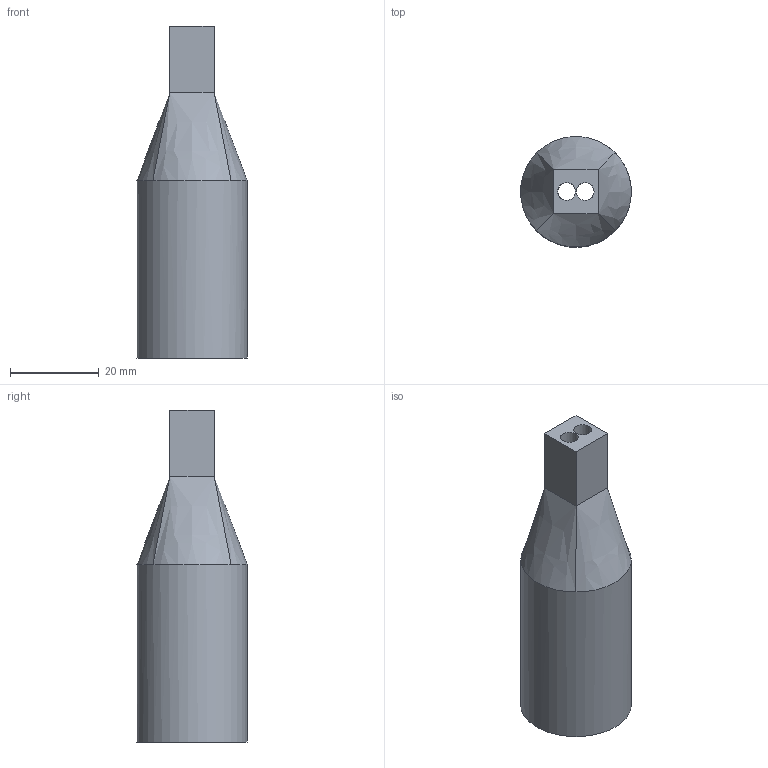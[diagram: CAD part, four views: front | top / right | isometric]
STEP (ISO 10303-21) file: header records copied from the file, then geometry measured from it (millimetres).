
FILE_DESCRIPTION(/* description */ ('STEP AP242 Edition 2','CAx-IF Rec.Pracs.---Representation and Presentation of Product Manufacturing Information (PMI)---4.0---2014-10-13','CAx-IF Rec.Pracs.---3D Tessellated Geometry---0.4---2014-09-14','2;1','CAx-IF Rec.Pracs.---User Defined Attributes---1.5---2016-08-15'),/* implementation_level */ '2;1');
FILE_NAME(/* name */ '695aff52d13f1a02338895fe',/* time_stamp */ '2026-01-05T00:01:23Z',/* author */ (''),/* organization */ (''),/* preprocessor_version */ 'ST-DEVELOPER v20',/* originating_system */ 'ONSHAPE BY PTC INC, 1.208',/* authorisation */ ' ');
FILE_SCHEMA (('AP242_MANAGED_MODEL_BASED_3D_ENGINEERING_MIM_LF { 1 0 10303 442 3 1 4 }'));
Length unit declared in the file: metre
Products named in the file (1): Part 1
Bounding box: 24.97 x 24.97 x 75 mm (x, y, z)
Volume: 8443.8 mm3; surface area: 9244.8 mm2
Topology: 1 solids, 1 shells, 20 faces, 50 edges, 32 vertices
Faces by surface type: plane 8, bspline 8, cylinder 4
Full cylindrical faces by diameter (mm): 4 x2, 21.5 x1, 25 x1
Entity records: 886 total; most frequent: CARTESIAN_POINT 459, ORIENTED_EDGE 86, DIRECTION 64, EDGE_CURVE 43, VERTEX_POINT 29, EDGE_LOOP 28, FACE_BOUND 28, AXIS2_PLACEMENT_3D 24
